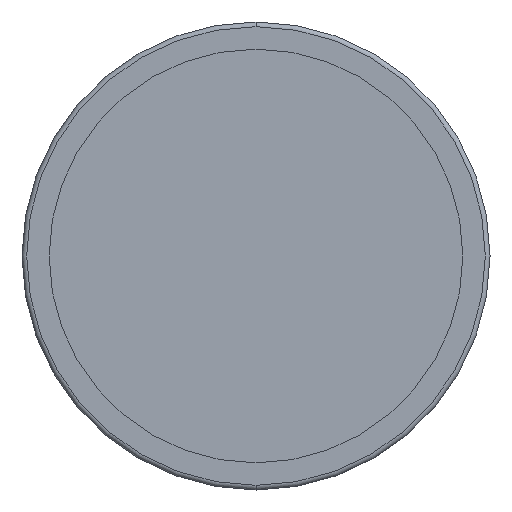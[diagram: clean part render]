
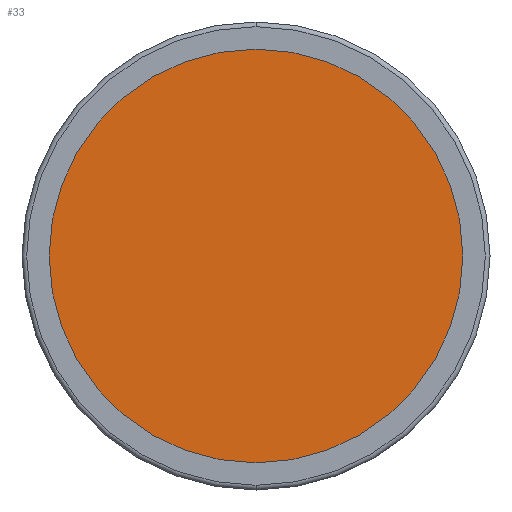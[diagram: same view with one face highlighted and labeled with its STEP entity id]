
A CAD part, front view. The second image highlights one B-rep face of the part: STEP entity #33.
In plain terms, the highlighted planar face has unit normal (0, -1, 0).
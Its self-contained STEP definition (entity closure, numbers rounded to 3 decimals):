
#33 = ADVANCED_FACE ( 'NONE', ( #1372 ), #262, .T. ) ;
#150 = CARTESIAN_POINT ( 'NONE',  ( 0., -3., -43.75 ) ) ;
#257 = AXIS2_PLACEMENT_3D ( 'NONE', #584, #2299, #1005 ) ;
#262 = PLANE ( 'NONE',  #257 ) ;
#289 = ORIENTED_EDGE ( 'NONE', *, *, #1438, .F. ) ;
#350 = DIRECTION ( 'NONE',  ( 0., 1., 0. ) ) ;
#380 = ORIENTED_EDGE ( 'NONE', *, *, #1037, .F. ) ;
#422 = AXIS2_PLACEMENT_3D ( 'NONE', #1610, #2131, #2004 ) ;
#468 = DIRECTION ( 'NONE',  ( 0., 0., 1. ) ) ;
#500 = CARTESIAN_POINT ( 'NONE',  ( 0., -3., 0. ) ) ;
#584 = CARTESIAN_POINT ( 'NONE',  ( -43.75, -3., 0. ) ) ;
#929 = CARTESIAN_POINT ( 'NONE',  ( 0., -3., 43.75 ) ) ;
#961 = AXIS2_PLACEMENT_3D ( 'NONE', #500, #350, #468 ) ;
#1001 = CIRCLE ( 'NONE', #961, 43.75 ) ;
#1005 = DIRECTION ( 'NONE',  ( 0., 0., -1. ) ) ;
#1037 = EDGE_CURVE ( 'NONE', #1040, #1982, #1001, .T. ) ;
#1040 = VERTEX_POINT ( 'NONE', #150 ) ;
#1372 = FACE_OUTER_BOUND ( 'NONE', #1847, .T. ) ;
#1438 = EDGE_CURVE ( 'NONE', #1982, #1040, #1917, .T. ) ;
#1610 = CARTESIAN_POINT ( 'NONE',  ( 0., -3., 0. ) ) ;
#1847 = EDGE_LOOP ( 'NONE', ( #289, #380 ) ) ;
#1917 = CIRCLE ( 'NONE', #422, 43.75 ) ;
#1982 = VERTEX_POINT ( 'NONE', #929 ) ;
#2004 = DIRECTION ( 'NONE',  ( 0., 0., 1. ) ) ;
#2131 = DIRECTION ( 'NONE',  ( 0., 1., 0. ) ) ;
#2299 = DIRECTION ( 'NONE',  ( 0., -1., 0. ) ) ;
